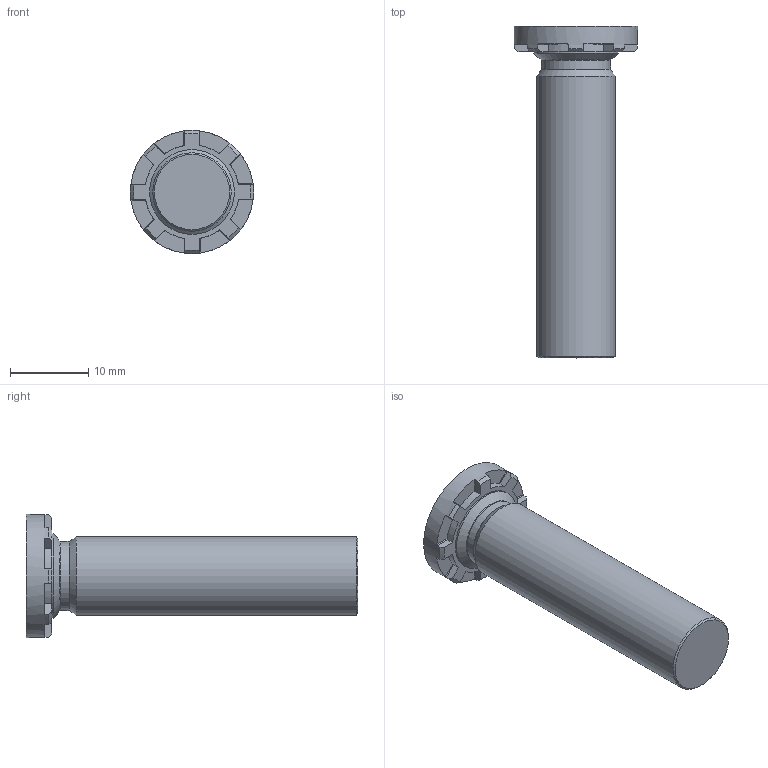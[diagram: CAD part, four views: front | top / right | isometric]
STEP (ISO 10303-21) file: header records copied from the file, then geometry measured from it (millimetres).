
FILE_DESCRIPTION(/* description */ (''),/* implementation_level */ '2;1');
FILE_NAME(/* name */ 'C:\Users\keval.kumar\Desktop\Fastit\Clinch Screw- HFH Range\M10\Clinch Screw-HFH Range_M10x40.stp',/* time_stamp */ '2024-03-12T15:12:10+06:00',/* author */ ('keval.kumar'),/* organization */ (''),/* preprocessor_version */ 'ST-DEVELOPER v18.1',/* originating_system */ 'Autodesk Inventor 2022',/* authorisation */ '');
FILE_SCHEMA (('AUTOMOTIVE_DESIGN { 1 0 10303 214 3 1 1 }'));
Length unit declared in the file: millimetre
Products named in the file (1): Clinch Screw-HFH Range_M10x40
Bounding box: 15.7 x 42.29 x 15.7 mm (x, y, z)
Volume: 3616.5 mm3; surface area: 1783.1 mm2
Topology: 1 solids, 1 shells, 68 faces, 193 edges, 128 vertices
Faces by surface type: plane 43, cylinder 12, cone 11, torus 2
Full cylindrical faces by diameter (mm): 8.8 x1, 10 x1, 10.8 x1, 15.7 x1
Entity records: 2278 total; most frequent: CARTESIAN_POINT 422, DIRECTION 405, ORIENTED_EDGE 386, EDGE_CURVE 193, AXIS2_PLACEMENT_3D 159, VERTEX_POINT 128, LINE 87, VECTOR 87
